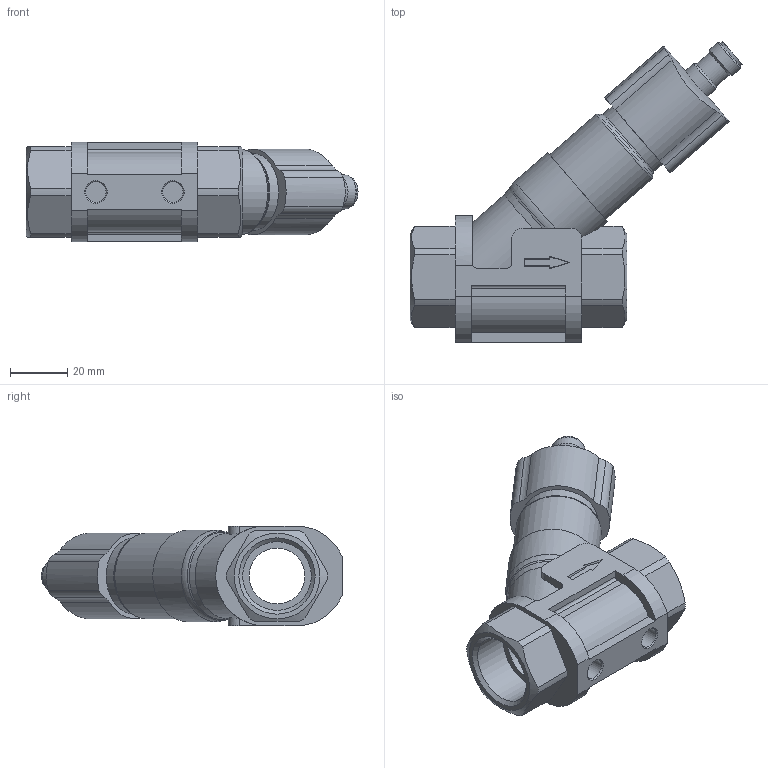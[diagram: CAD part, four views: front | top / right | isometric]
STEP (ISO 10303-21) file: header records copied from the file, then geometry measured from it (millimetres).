
FILE_DESCRIPTION(/* description */ ('STEP AP203'),/* implementation_level */ '2;1');
FILE_NAME(/* name */ 'SBN432',/* time_stamp */ '2023-06-20T13:15:37+02:00',/* author */ ('License CC BY-ND 4.0'),/* organization */ ('CADENAS'),/* preprocessor_version */ 'ST-DEVELOPER v19.3',/* originating_system */ 'PARTsolutions',/* authorisation */ ' ');
FILE_SCHEMA (('CONFIG_CONTROL_DESIGN'));
Length unit declared in the file: millimetre
Products named in the file (1): SBN432
Bounding box: 116.39 x 105.6 x 35 mm (x, y, z)
Volume: 108971.9 mm3; surface area: 25476.4 mm2
Topology: 1 solids, 1 shells, 130 faces, 336 edges, 219 vertices
Faces by surface type: plane 58, cylinder 57, cone 11, torus 4
Full cylindrical faces by diameter (mm): 7.188 x2, 8.4 x1, 10.5 x1, 10.6 x1, 12 x2, 19.5 x1, 24.117 x2, 26.9 x1, 30 x1, 32 x1
Entity records: 4859 total; most frequent: CARTESIAN_POINT 838, DIRECTION 645, ORIENTED_EDGE 614, EDGE_CURVE 307, AXIS2_PLACEMENT_3D 247, VERTEX_POINT 215, EDGE_LOOP 168, FACE_BOUND 168
